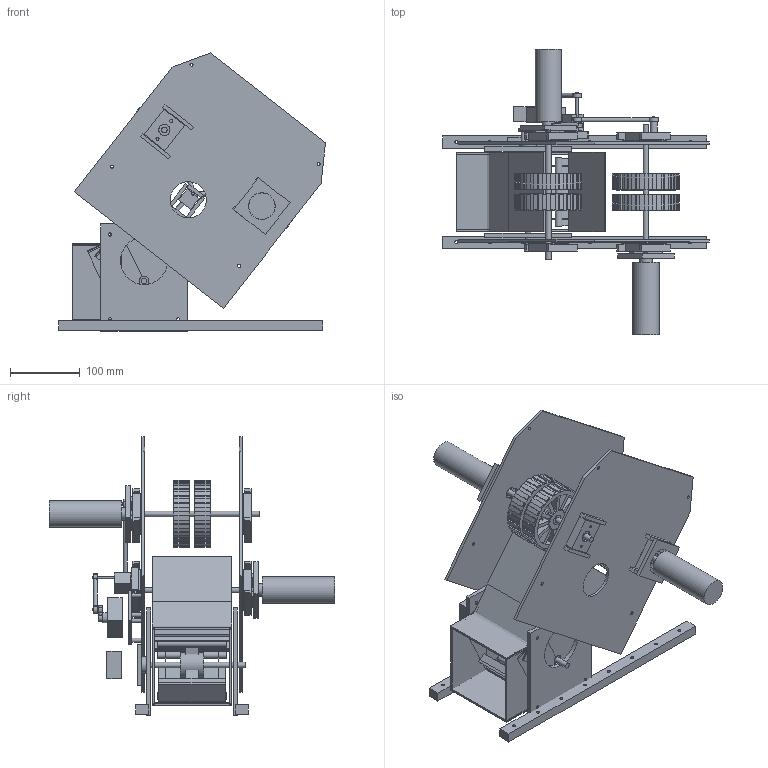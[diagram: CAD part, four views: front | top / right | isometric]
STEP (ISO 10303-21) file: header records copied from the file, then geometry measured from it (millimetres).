
FILE_DESCRIPTION(('Open CASCADE Model'),'2;1');
FILE_NAME('Open CASCADE Shape Model','2026-09-21T16:05:26',('Author'),( 'Open CASCADE'),'Open CASCADE STEP processor 7.8','Open CASCADE 7.8' ,'Unknown');
FILE_SCHEMA(('AUTOMOTIVE_DESIGN { 1 0 10303 214 1 1 1 1 }'));
Length unit declared in the file: millimetre
Products named in the file (114): paddle_launcher_constrained_nectar; base_rail_-72; base_rail_+72; guide_floor_1; guide_roof_1; guide_wall_1_-1; guide_wall_1_+1; guide_floor_2; guide_roof_2; guide_wall_2_-1; guide_wall_2_+1; guide_floor_3; guide_roof_3; guide_wall_3_-1; guide_wall_3_+1; paddle_support_cheek_-1; paddle_support_cheek_+1; paddle_shaft_8mm; paddle_hub; paddle_arm_1; paddle_hinge_1; paddle_blade_1; paddle_flex_tip_1; paddle_arm_2; paddle_hinge_2; paddle_blade_2; paddle_flex_tip_2; paddle_arm_3; paddle_hinge_3; paddle_blade_3; paddle_flex_tip_3; paddle_cr_servo_envelope; paddle_servo_block; paddle_shaft_clamp; one_way_finger_-1; one_way_finger_+1; shooter_side_plate_-1; shooter_side_plate_+1; flywheel_shaft_upper; gecko_flywheel_upper_1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
Assembly tree (113 placements, depth 2):
  paddle_launcher_constrained_nectar
    base_rail_-72
    base_rail_+72
    guide_floor_1
    guide_roof_1
    guide_wall_1_-1
    guide_wall_1_+1
    guide_floor_2
    guide_roof_2
    guide_wall_2_-1
    guide_wall_2_+1
    guide_floor_3
    guide_roof_3
    guide_wall_3_-1
    guide_wall_3_+1
    paddle_support_cheek_-1
    paddle_support_cheek_+1
    paddle_shaft_8mm
    paddle_hub
    paddle_arm_1
    paddle_hinge_1
    paddle_blade_1
    paddle_flex_tip_1
    paddle_arm_2
    paddle_hinge_2
    paddle_blade_2
    paddle_flex_tip_2
    paddle_arm_3
    paddle_hinge_3
    paddle_blade_3
    paddle_flex_tip_3
    paddle_cr_servo_envelope
    paddle_servo_block
    paddle_shaft_clamp
    one_way_finger_-1
    one_way_finger_+1
    shooter_side_plate_-1
    shooter_side_plate_+1
    flywheel_shaft_upper
    gecko_flywheel_upper_1
    sonic_hub_upper_1
    hub_bolt_upper_1_1
    hub_bolt_upper_1_2
    hub_bolt_upper_1_3
    hub_bolt_upper_1_4
    gecko_flywheel_upper_2
    sonic_hub_upper_2
    hub_bolt_upper_2_1
    hub_bolt_upper_2_2
    hub_bolt_upper_2_3
    hub_bolt_upper_2_4
    bearing_carriage_upper_-1
    bearing_insert_upper_-1
    carriage_guide_upper_-1_-26.5
    carriage_guide_upper_-1_+26.5
    bearing_carriage_upper_+1
    bearing_insert_upper_+1
    carriage_guide_upper_+1_-26.5
    carriage_guide_upper_+1_+26.5
    motor_mount_upper
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Bounding box: 383.85 x 410 x 400.02 mm (x, y, z)
Volume: 2403329.3 mm3; surface area: 1028446.2 mm2
Topology: 113 solids, 113 shells, 1401 faces, 3201 edges, 2134 vertices
Faces by surface type: plane 1192, cylinder 209
Full cylindrical faces by diameter (mm): 4 x20, 4.2 x29, 4.4 x20, 4.6 x24, 6 x6, 6.4 x2, 8 x3, 8.2 x12, 10 x5, 14 x3, 14.2 x8, 16 x4, 16.2 x4, 16.4 x1, 18 x2, 24 x1, 30 x4, 32 x4, 36 x1, 38 x2, 38.4 x2, 44 x4, 52 x2, 68 x2, 79 x4, 92 x4
Entity records: 90089 total; most frequent: CARTESIAN_POINT 19347, DIRECTION 13307, LINE 7819, VECTOR 7819, ORIENTED_EDGE 6402, PCURVE 6402, DEFINITIONAL_REPRESENTATION 6402, EDGE_CURVE 3201
